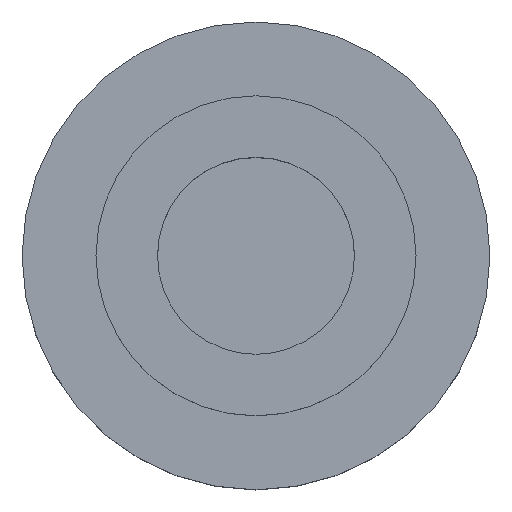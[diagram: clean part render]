
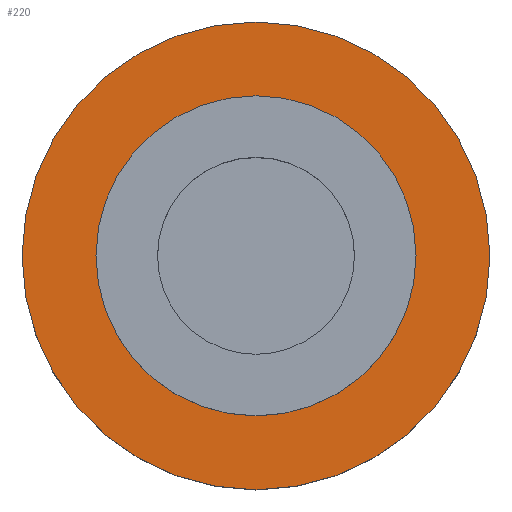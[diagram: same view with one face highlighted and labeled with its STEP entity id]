
A CAD part, top view. The second image highlights one B-rep face of the part: STEP entity #220.
In plain terms, the highlighted planar face has unit normal (0, 0, 1).
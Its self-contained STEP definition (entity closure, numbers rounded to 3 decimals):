
#220 = ADVANCED_FACE( '', ( #597, #598 ), #599, .F. );
#597 = FACE_OUTER_BOUND( '', #1175, .T. );
#598 = FACE_BOUND( '', #1176, .T. );
#599 = PLANE( '', #1177 );
#1175 = EDGE_LOOP( '', ( #3387 ) );
#1176 = EDGE_LOOP( '', ( #3388 ) );
#1177 = AXIS2_PLACEMENT_3D( '', #3389, #3390, #3391 );
#3387 = ORIENTED_EDGE( '', *, *, #4745, .T. );
#3388 = ORIENTED_EDGE( '', *, *, #4746, .T. );
#3389 = CARTESIAN_POINT( '', ( 5.3, -2.911, 39.518 ) );
#3390 = DIRECTION( '', ( 0., 0., -1. ) );
#3391 = DIRECTION( '', ( 0., -1., 0. ) );
#4745 = EDGE_CURVE( '', #5376, #5376, #5377, .T. );
#4746 = EDGE_CURVE( '', #5378, #5378, #5379, .T. );
#5376 = VERTEX_POINT( '', #6596 );
#5377 = CIRCLE( '', #6597, 9.5 );
#5378 = VERTEX_POINT( '', #6598 );
#5379 = CIRCLE( '', #6599, 4.75 );
#6596 = CARTESIAN_POINT( '', ( 14.8, 1.839, 39.518 ) );
#6597 = AXIS2_PLACEMENT_3D( '', #8658, #8659, #8660 );
#6598 = CARTESIAN_POINT( '', ( 0.55, 1.839, 39.518 ) );
#6599 = AXIS2_PLACEMENT_3D( '', #8661, #8662, #8663 );
#8658 = CARTESIAN_POINT( '', ( 5.3, 1.839, 39.518 ) );
#8659 = DIRECTION( '', ( 0., 0., 1. ) );
#8660 = DIRECTION( '', ( 1., 0., 0. ) );
#8661 = CARTESIAN_POINT( '', ( 5.3, 1.839, 39.518 ) );
#8662 = DIRECTION( '', ( 0., 0., -1. ) );
#8663 = DIRECTION( '', ( -1., 0., 0. ) );
